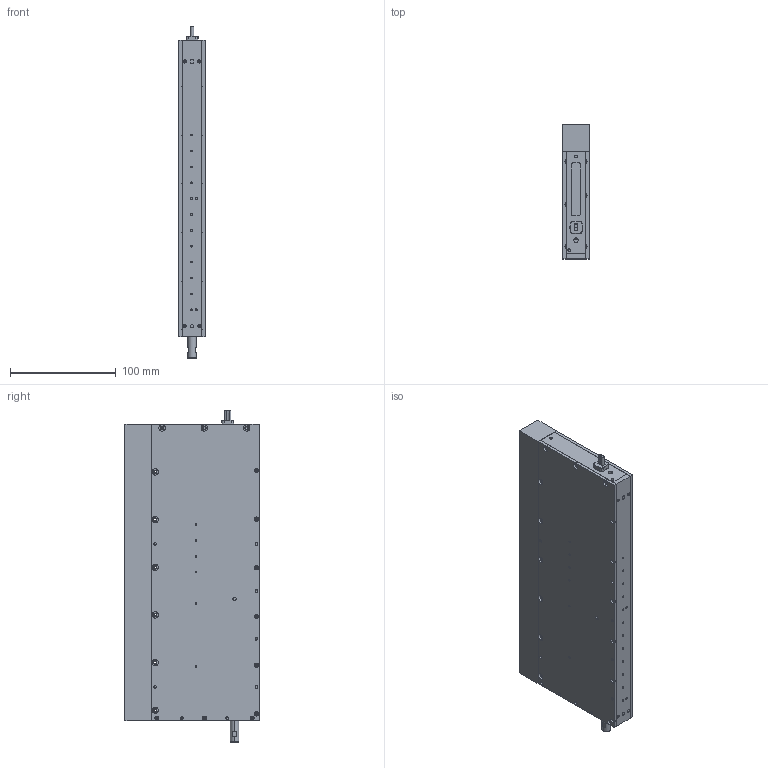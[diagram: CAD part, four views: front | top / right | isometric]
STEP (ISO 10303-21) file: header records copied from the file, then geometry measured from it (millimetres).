
FILE_DESCRIPTION (( 'STEP AP203' ), '1' );
FILE_NAME ('LBL25-100-3X-3_D.STEP', '2020-05-27T16:09:04', ( '' ), ( '' ), 'SwSTEP 2.0', 'SolidWorks 2018', '' );
FILE_SCHEMA (( 'CONFIG_CONTROL_DESIGN' ));
Length unit declared in the file: millimetre
Products named in the file (11): BUMPER.stp; 140820-01.stp; LBL25-100-3X-3_D; 140821-01.stp; 140821-02.stp; LBL25-100-3X-3.stp; 230090-03.stp; CABLE-G_B.stp; 210101-100.stp; 230091-100.stp; 110091-01_G
Assembly tree (10 placements, depth 3):
  LBL25-100-3X-3_D
    LBL25-100-3X-3.stp
      140821-01.stp
      140820-01.stp
      230091-100.stp
      230090-03.stp
      BUMPER.stp
      210101-100.stp
      140821-02.stp
      CABLE-G_B.stp
    110091-01_G
Bounding box: 24.8 x 126.6 x 313.5 mm (x, y, z)
Volume: 351912.4 mm3; surface area: 200928.8 mm2
Topology: 9 solids, 9 shells, 709 faces, 1779 edges, 1100 vertices
Faces by surface type: bspline 423, cylinder 124, plane 102, cone 52, torus 8
Entity records: 27462 total; most frequent: CARTESIAN_POINT 11157, ORIENTED_EDGE 3398, DIRECTION 2681, EDGE_CURVE 1699, AXIS2_PLACEMENT_3D 1180, VERTEX_POINT 1100, EDGE_LOOP 1015, CIRCLE 880
